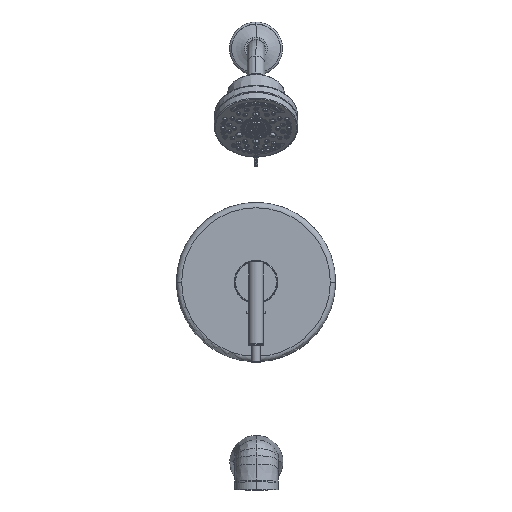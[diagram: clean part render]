
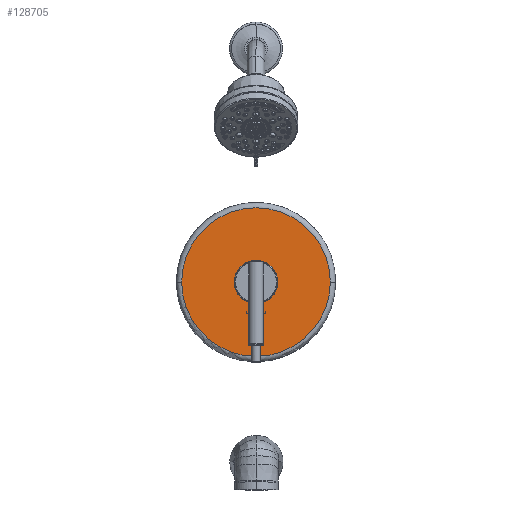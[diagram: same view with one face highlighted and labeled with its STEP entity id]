
A CAD part, top view. The second image highlights one B-rep face of the part: STEP entity #128705.
In plain terms, the highlighted planar face has unit normal (0, 0, 1).
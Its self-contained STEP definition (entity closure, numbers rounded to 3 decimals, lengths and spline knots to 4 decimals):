
#413 = CARTESIAN_POINT ( 'NONE',  ( 0., 0., 0. ) ) ;
#860 = AXIS2_PLACEMENT_3D ( 'NONE', #162619, #86856, #59756 ) ;
#1376 = DIRECTION ( 'NONE',  ( 0., 0., 1. ) ) ;
#1417 = ORIENTED_EDGE ( 'NONE', *, *, #66282, .F. ) ;
#4996 = EDGE_CURVE ( 'NONE', #108974, #63022, #142996, .T. ) ;
#6602 = DIRECTION ( 'NONE',  ( 0., -1., 0. ) ) ;
#9349 = EDGE_CURVE ( 'NONE', #63022, #161067, #69168, .T. ) ;
#10944 = VECTOR ( 'NONE', #6602, 39.3701 ) ;
#12407 = PLANE ( 'NONE',  #39526 ) ;
#12515 = EDGE_LOOP ( 'NONE', ( #24325, #15441 ) ) ;
#14055 = DIRECTION ( 'NONE',  ( 1., 0., 0. ) ) ;
#15224 = CARTESIAN_POINT ( 'NONE',  ( -0.1275, -1.27, 0. ) ) ;
#15441 = ORIENTED_EDGE ( 'NONE', *, *, #69781, .T. ) ;
#17427 = CIRCLE ( 'NONE', #109467, 3.5 ) ;
#24325 = ORIENTED_EDGE ( 'NONE', *, *, #153826, .T. ) ;
#33197 = VERTEX_POINT ( 'NONE', #43477 ) ;
#33686 = CIRCLE ( 'NONE', #75745, 3.5 ) ;
#35314 = CARTESIAN_POINT ( 'NONE',  ( 0.1275, -1.0175, 0. ) ) ;
#39526 = AXIS2_PLACEMENT_3D ( 'NONE', #150756, #48669, #14055 ) ;
#39729 = EDGE_LOOP ( 'NONE', ( #58166, #1417, #86272, #135833 ) ) ;
#42256 = CIRCLE ( 'NONE', #155350, 0.1275 ) ;
#43477 = CARTESIAN_POINT ( 'NONE',  ( 3.5, 0., 0. ) ) ;
#45834 = CARTESIAN_POINT ( 'NONE',  ( 0.1275, -1.0175, 0. ) ) ;
#48669 = DIRECTION ( 'NONE',  ( 0., 0., 1. ) ) ;
#50291 = FACE_BOUND ( 'NONE', #39729, .T. ) ;
#55288 = VERTEX_POINT ( 'NONE', #87524 ) ;
#58166 = ORIENTED_EDGE ( 'NONE', *, *, #71710, .F. ) ;
#59756 = DIRECTION ( 'NONE',  ( 1., 0., 0. ) ) ;
#59812 = LINE ( 'NONE', #45834, #92027 ) ;
#63022 = VERTEX_POINT ( 'NONE', #82622 ) ;
#66282 = EDGE_CURVE ( 'NONE', #161067, #100467, #42256, .T. ) ;
#69168 = LINE ( 'NONE', #121040, #10944 ) ;
#69781 = EDGE_CURVE ( 'NONE', #55288, #33197, #33686, .T. ) ;
#71710 = EDGE_CURVE ( 'NONE', #100467, #108974, #59812, .T. ) ;
#73856 = DIRECTION ( 'NONE',  ( 1., 0., 0. ) ) ;
#75745 = AXIS2_PLACEMENT_3D ( 'NONE', #413, #147864, #100013 ) ;
#82622 = CARTESIAN_POINT ( 'NONE',  ( -0.1275, -1.0175, 0. ) ) ;
#86272 = ORIENTED_EDGE ( 'NONE', *, *, #9349, .F. ) ;
#86856 = DIRECTION ( 'NONE',  ( 0., 0., 1. ) ) ;
#87524 = CARTESIAN_POINT ( 'NONE',  ( -3.5, 0., 0. ) ) ;
#89490 = CARTESIAN_POINT ( 'NONE',  ( 0., 0., 0. ) ) ;
#92027 = VECTOR ( 'NONE', #95243, 39.3701 ) ;
#93424 = CARTESIAN_POINT ( 'NONE',  ( 0.1275, -1.27, 0. ) ) ;
#95243 = DIRECTION ( 'NONE',  ( 0., 1., 0. ) ) ;
#100013 = DIRECTION ( 'NONE',  ( 1., 0., 0. ) ) ;
#100467 = VERTEX_POINT ( 'NONE', #93424 ) ;
#100505 = FACE_OUTER_BOUND ( 'NONE', #12515, .T. ) ;
#108974 = VERTEX_POINT ( 'NONE', #35314 ) ;
#109467 = AXIS2_PLACEMENT_3D ( 'NONE', #89490, #129821, #139728 ) ;
#113355 = CARTESIAN_POINT ( 'NONE',  ( 0., -1.27, 0. ) ) ;
#121040 = CARTESIAN_POINT ( 'NONE',  ( -0.1275, -1.0175, 0. ) ) ;
#128705 = ADVANCED_FACE ( 'NONE', ( #50291, #100505 ), #12407, .T. ) ;
#129821 = DIRECTION ( 'NONE',  ( 0., 0., 1. ) ) ;
#135833 = ORIENTED_EDGE ( 'NONE', *, *, #4996, .F. ) ;
#139728 = DIRECTION ( 'NONE',  ( 1., 0., 0. ) ) ;
#142996 = CIRCLE ( 'NONE', #860, 1.0255 ) ;
#147864 = DIRECTION ( 'NONE',  ( 0., 0., 1. ) ) ;
#150756 = CARTESIAN_POINT ( 'NONE',  ( 0., 0., 0. ) ) ;
#153826 = EDGE_CURVE ( 'NONE', #33197, #55288, #17427, .T. ) ;
#155350 = AXIS2_PLACEMENT_3D ( 'NONE', #113355, #1376, #73856 ) ;
#161067 = VERTEX_POINT ( 'NONE', #15224 ) ;
#162619 = CARTESIAN_POINT ( 'NONE',  ( 0., 0., 0. ) ) ;
